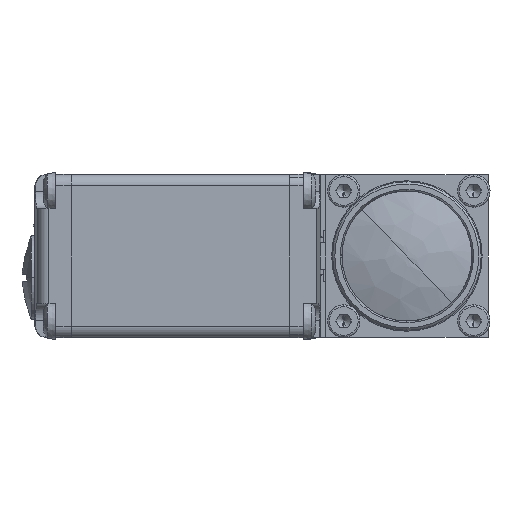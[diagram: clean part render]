
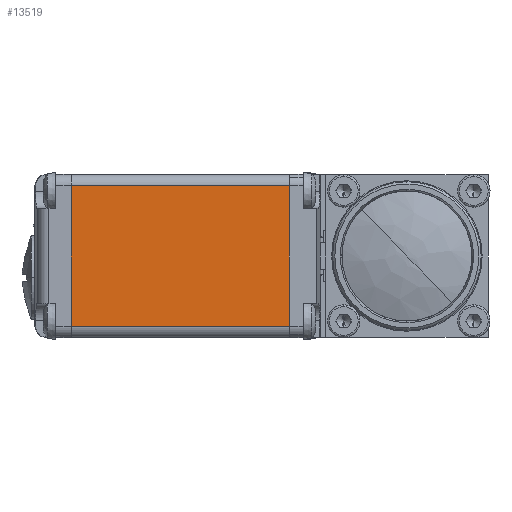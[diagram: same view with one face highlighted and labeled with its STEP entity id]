
A CAD part, left-side view. The second image highlights one B-rep face of the part: STEP entity #13519.
In plain terms, the highlighted planar face has unit normal (-1, 0, 0).
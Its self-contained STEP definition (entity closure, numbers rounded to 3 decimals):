
#13519 = ADVANCED_FACE ( 'NONE', ( #30770 ), #27877, .F. ) ;
#27877 = PLANE ( 'NONE',  #30781 ) ;
#27878 = CARTESIAN_POINT ( 'NONE',  ( 12.3, 72.3, 0. ) ) ;
#27879 = DIRECTION ( 'NONE',  ( 1., 0., 0. ) ) ;
#27880 = DIRECTION ( 'NONE',  ( 0., 0., 1. ) ) ;
#30770 = FACE_OUTER_BOUND ( 'NONE', #111600, .T. ) ;
#30781 = AXIS2_PLACEMENT_3D ( 'NONE', #27878, #27879, #27880 ) ;
#111600 = EDGE_LOOP ( 'NONE', ( #126852, #126853, #126854, #126851 ) ) ;
#117955 = VERTEX_POINT ( 'NONE', #147895 ) ;
#117956 = VERTEX_POINT ( 'NONE', #147896 ) ;
#118025 = VERTEX_POINT ( 'NONE', #147965 ) ;
#118026 = VERTEX_POINT ( 'NONE', #147966 ) ;
#124616 = VECTOR ( 'NONE', #152875, 1000. ) ;
#124724 = VECTOR ( 'NONE', #153389, 1000. ) ;
#124727 = VECTOR ( 'NONE', #153407, 1000. ) ;
#124728 = VECTOR ( 'NONE', #153413, 1000. ) ;
#126851 = ORIENTED_EDGE ( 'NONE', *, *, #127508, .T. ) ;
#126852 = ORIENTED_EDGE ( 'NONE', *, *, #127391, .F. ) ;
#126853 = ORIENTED_EDGE ( 'NONE', *, *, #127507, .F. ) ;
#126854 = ORIENTED_EDGE ( 'NONE', *, *, #127504, .T. ) ;
#127391 = EDGE_CURVE ( 'NONE', #117955, #117956, #152873, .T. ) ;
#127504 = EDGE_CURVE ( 'NONE', #118026, #118025, #153385, .T. ) ;
#127507 = EDGE_CURVE ( 'NONE', #118026, #117955, #153403, .T. ) ;
#127508 = EDGE_CURVE ( 'NONE', #118025, #117956, #153409, .T. ) ;
#147895 = CARTESIAN_POINT ( 'NONE',  ( 12.3, 25.3, 15.15 ) ) ;
#147896 = CARTESIAN_POINT ( 'NONE',  ( 12.3, 25.3, -15.15 ) ) ;
#147965 = CARTESIAN_POINT ( 'NONE',  ( 12.3, 72.3, -15.15 ) ) ;
#147966 = CARTESIAN_POINT ( 'NONE',  ( 12.3, 72.3, 15.15 ) ) ;
#152873 = LINE ( 'NONE', #152874, #124616 ) ;
#152874 = CARTESIAN_POINT ( 'NONE',  ( 12.3, 25.3, 0. ) ) ;
#152875 = DIRECTION ( 'NONE',  ( 0., 0., -1. ) ) ;
#153385 = LINE ( 'NONE', #153387, #124724 ) ;
#153387 = CARTESIAN_POINT ( 'NONE',  ( 12.3, 72.3, 0. ) ) ;
#153389 = DIRECTION ( 'NONE',  ( 0., 0., -1. ) ) ;
#153403 = LINE ( 'NONE', #153405, #124727 ) ;
#153405 = CARTESIAN_POINT ( 'NONE',  ( 12.3, 72.3, 15.15 ) ) ;
#153407 = DIRECTION ( 'NONE',  ( 0., -1., 0. ) ) ;
#153409 = LINE ( 'NONE', #153411, #124728 ) ;
#153411 = CARTESIAN_POINT ( 'NONE',  ( 12.3, 72.3, -15.15 ) ) ;
#153413 = DIRECTION ( 'NONE',  ( 0., -1., 0. ) ) ;
